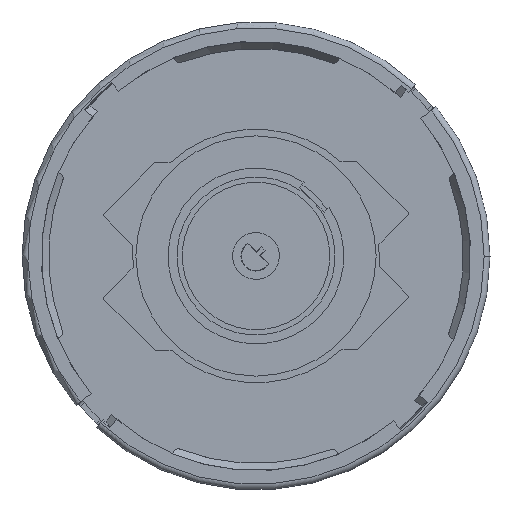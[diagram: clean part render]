
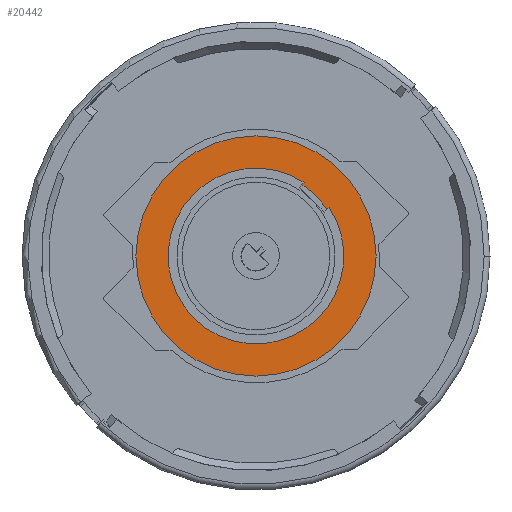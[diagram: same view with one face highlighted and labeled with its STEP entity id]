
A CAD part, front view. The second image highlights one B-rep face of the part: STEP entity #20442.
In plain terms, the highlighted planar face has unit normal (0, -1, 0).
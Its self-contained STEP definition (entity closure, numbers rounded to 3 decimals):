
#8173=CARTESIAN_POINT('',(0.,0.,0.));
#8174=DIRECTION('',(0.,-1.,0.));
#8175=DIRECTION('',(-1.,0.,0.));
#8176=AXIS2_PLACEMENT_3D('',#8173,#8174,#8175);
#8181=CARTESIAN_POINT('',(0.,0.,0.));
#8182=DIRECTION('',(0.,1.,0.));
#8183=DIRECTION('',(-1.,0.,0.));
#8184=AXIS2_PLACEMENT_3D('',#8181,#8182,#8183);
#8189=DIRECTION('',(0.703,0.,0.711));
#8190=VECTOR('',#8189,0.511);
#8191=CARTESIAN_POINT('',(7.843,0.,12.196));
#8192=LINE('',#8191,#8190);
#8196=DIRECTION('',(-0.703,0.,-0.711));
#8197=VECTOR('',#8196,0.511);
#8198=CARTESIAN_POINT('',(12.468,0.,8.34));
#8199=LINE('',#8198,#8197);
#8239=CARTESIAN_POINT('',(0.,0.,0.));
#8240=DIRECTION('',(0.,1.,0.));
#8241=DIRECTION('',(0.541,0.,0.841));
#8242=AXIS2_PLACEMENT_3D('',#8239,#8240,#8241);
#8296=CARTESIAN_POINT('',(0.,0.,0.));
#8297=DIRECTION('',(0.,1.,0.));
#8298=DIRECTION('',(0.831,0.,0.556));
#8299=AXIS2_PLACEMENT_3D('',#8296,#8297,#8298);
#8705=CARTESIAN_POINT('',(-20.5,0.,0.));
#8706=CARTESIAN_POINT('',(20.5,0.,0.));
#8707=VERTEX_POINT('',#8705);
#8708=VERTEX_POINT('',#8706);
#9394=CARTESIAN_POINT('',(7.843,0.,12.196));
#9395=CARTESIAN_POINT('',(8.202,0.,12.559));
#9396=VERTEX_POINT('',#9394);
#9397=VERTEX_POINT('',#9395);
#9398=CARTESIAN_POINT('',(12.468,0.,8.34));
#9399=CARTESIAN_POINT('',(12.109,0.,7.977));
#9400=VERTEX_POINT('',#9398);
#9401=VERTEX_POINT('',#9399);
#20423=CARTESIAN_POINT('',(0.,0.,0.));
#20424=DIRECTION('',(0.,-1.,0.));
#20425=DIRECTION('',(-1.,0.,0.));
#20426=AXIS2_PLACEMENT_3D('',#20423,#20424,#20425);
#20427=PLANE('',#20426);
#20428=ORIENTED_EDGE('',*,*,#20403,.F.);
#20429=ORIENTED_EDGE('',*,*,#20417,.T.);
#20430=EDGE_LOOP('',(#20428,#20429));
#20431=FACE_OUTER_BOUND('',#20430,.F.);
#20433=ORIENTED_EDGE('',*,*,#20432,.T.);
#20435=ORIENTED_EDGE('',*,*,#20434,.F.);
#20437=ORIENTED_EDGE('',*,*,#20436,.T.);
#20439=ORIENTED_EDGE('',*,*,#20438,.F.);
#20440=EDGE_LOOP('',(#20433,#20435,#20437,#20439));
#20441=FACE_BOUND('',#20440,.F.);
#8177=CIRCLE('',#8176,20.5);
#8185=CIRCLE('',#8184,20.5);
#8243=CIRCLE('',#8242,14.5);
#8300=CIRCLE('',#8299,15.);
#20403=EDGE_CURVE('',#8707,#8708,#8177,.T.);
#20417=EDGE_CURVE('',#8707,#8708,#8185,.T.);
#20432=EDGE_CURVE('',#9396,#9397,#8192,.T.);
#20434=EDGE_CURVE('',#9400,#9397,#8300,.T.);
#20436=EDGE_CURVE('',#9400,#9401,#8199,.T.);
#20438=EDGE_CURVE('',#9396,#9401,#8243,.T.);
#20442=ADVANCED_FACE('',(#20431,#20441),#20427,.T.);
